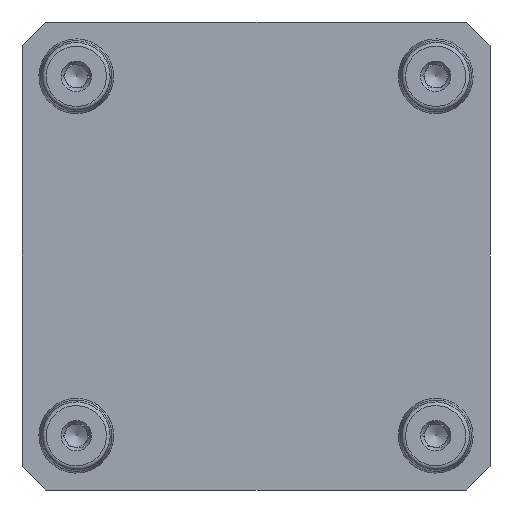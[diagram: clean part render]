
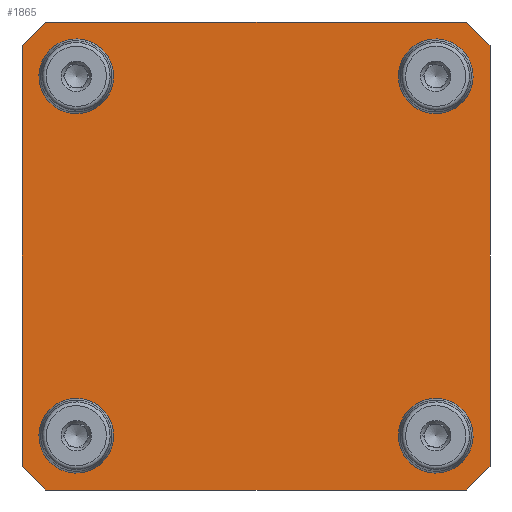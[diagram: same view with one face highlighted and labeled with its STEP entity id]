
A CAD part, front view. The second image highlights one B-rep face of the part: STEP entity #1865.
In plain terms, the highlighted planar face has unit normal (0, -1, 0).
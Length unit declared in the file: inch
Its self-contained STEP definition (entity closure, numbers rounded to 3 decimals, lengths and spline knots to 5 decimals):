
#7 = EDGE_CURVE ( 'NONE', #7587, #3811, #7456, .T. ) ;
#202 = CARTESIAN_POINT ( 'NONE',  ( 2.21063, -0.98425, -2.46063 ) ) ;
#268 = CARTESIAN_POINT ( 'NONE',  ( 2.21063, -0.98425, 2.46063 ) ) ;
#401 = EDGE_CURVE ( 'NONE', #6807, #6048, #6736, .T. ) ;
#476 = AXIS2_PLACEMENT_3D ( 'NONE', #5102, #921, #5064 ) ;
#752 = ORIENTED_EDGE ( 'NONE', *, *, #1777, .F. ) ;
#855 = EDGE_CURVE ( 'NONE', #3037, #3037, #2448, .T. ) ;
#880 = CARTESIAN_POINT ( 'NONE',  ( 1.88976, -0.98425, -2.20511 ) ) ;
#885 = ORIENTED_EDGE ( 'NONE', *, *, #401, .F. ) ;
#921 = DIRECTION ( 'NONE',  ( 0., -1., 0. ) ) ;
#1001 = DIRECTION ( 'NONE',  ( 0., 0., -1. ) ) ;
#1056 = CARTESIAN_POINT ( 'NONE',  ( -2.21063, -0.98425, 2.46063 ) ) ;
#1114 = VERTEX_POINT ( 'NONE', #4422 ) ;
#1183 = CARTESIAN_POINT ( 'NONE',  ( 2.46063, -0.98425, 2.21063 ) ) ;
#1207 = DIRECTION ( 'NONE',  ( 0.707, 0., 0.707 ) ) ;
#1337 = ORIENTED_EDGE ( 'NONE', *, *, #6427, .F. ) ;
#1449 = VECTOR ( 'NONE', #1969, 39.37008 ) ;
#1588 = CARTESIAN_POINT ( 'NONE',  ( -2.46063, -0.98425, 2.21063 ) ) ;
#1616 = DIRECTION ( 'NONE',  ( -1., 0., 0. ) ) ;
#1627 = LINE ( 'NONE', #3865, #1449 ) ;
#1702 = LINE ( 'NONE', #4113, #2118 ) ;
#1722 = AXIS2_PLACEMENT_3D ( 'NONE', #7809, #2247, #2128 ) ;
#1746 = CARTESIAN_POINT ( 'NONE',  ( -2.46063, -0.98425, -2.21063 ) ) ;
#1777 = EDGE_CURVE ( 'NONE', #5712, #5712, #6632, .T. ) ;
#1865 = ADVANCED_FACE ( 'NONE', ( #5795, #7700, #6882, #3254, #3797 ), #3835, .T. ) ;
#1896 = DIRECTION ( 'NONE',  ( 0.707, 0., -0.707 ) ) ;
#1969 = DIRECTION ( 'NONE',  ( 1., 0., 0. ) ) ;
#2008 = EDGE_CURVE ( 'NONE', #3811, #2947, #1702, .T. ) ;
#2038 = VECTOR ( 'NONE', #1896, 39.37008 ) ;
#2066 = VECTOR ( 'NONE', #2380, 39.37008 ) ;
#2118 = VECTOR ( 'NONE', #4560, 39.37008 ) ;
#2128 = DIRECTION ( 'NONE',  ( 0., 0., -1. ) ) ;
#2247 = DIRECTION ( 'NONE',  ( 0., -1., 0. ) ) ;
#2380 = DIRECTION ( 'NONE',  ( 0., 0., 1. ) ) ;
#2383 = EDGE_LOOP ( 'NONE', ( #752 ) ) ;
#2434 = VECTOR ( 'NONE', #1207, 39.37008 ) ;
#2448 = CIRCLE ( 'NONE', #5922, 0.31535 ) ;
#2451 = CARTESIAN_POINT ( 'NONE',  ( 1.88976, -0.98425, 1.57441 ) ) ;
#2496 = LINE ( 'NONE', #2937, #2066 ) ;
#2533 = VERTEX_POINT ( 'NONE', #5638 ) ;
#2628 = DIRECTION ( 'NONE',  ( 0., -1., 0. ) ) ;
#2826 = VECTOR ( 'NONE', #5820, 39.37008 ) ;
#2849 = CARTESIAN_POINT ( 'NONE',  ( 2.21063, -0.98425, -2.46063 ) ) ;
#2855 = CARTESIAN_POINT ( 'NONE',  ( 1.88976, -0.98425, 1.88976 ) ) ;
#2937 = CARTESIAN_POINT ( 'NONE',  ( -2.46063, -0.98425, 2.21063 ) ) ;
#2947 = VERTEX_POINT ( 'NONE', #3751 ) ;
#3033 = EDGE_CURVE ( 'NONE', #3426, #3426, #6093, .T. ) ;
#3037 = VERTEX_POINT ( 'NONE', #2451 ) ;
#3073 = EDGE_CURVE ( 'NONE', #3127, #1114, #6507, .T. ) ;
#3127 = VERTEX_POINT ( 'NONE', #2849 ) ;
#3254 = FACE_BOUND ( 'NONE', #6137, .T. ) ;
#3325 = CARTESIAN_POINT ( 'NONE',  ( 1.88976, -0.98425, -1.88976 ) ) ;
#3426 = VERTEX_POINT ( 'NONE', #6623 ) ;
#3751 = CARTESIAN_POINT ( 'NONE',  ( 2.46063, -0.98425, -2.21063 ) ) ;
#3785 = ORIENTED_EDGE ( 'NONE', *, *, #6309, .F. ) ;
#3797 = FACE_OUTER_BOUND ( 'NONE', #3802, .T. ) ;
#3802 = EDGE_LOOP ( 'NONE', ( #1337, #6782, #7530, #6472, #7024, #4415, #885, #3785 ) ) ;
#3811 = VERTEX_POINT ( 'NONE', #7792 ) ;
#3835 = PLANE ( 'NONE',  #476 ) ;
#3865 = CARTESIAN_POINT ( 'NONE',  ( 2.21063, -0.98425, 2.46063 ) ) ;
#3919 = DIRECTION ( 'NONE',  ( 0., 0., -1. ) ) ;
#4113 = CARTESIAN_POINT ( 'NONE',  ( 2.46063, -0.98425, -2.21063 ) ) ;
#4134 = CARTESIAN_POINT ( 'NONE',  ( -2.21063, -0.98425, 2.46063 ) ) ;
#4228 = ORIENTED_EDGE ( 'NONE', *, *, #3033, .F. ) ;
#4237 = DIRECTION ( 'NONE',  ( -0.707, 0., 0.707 ) ) ;
#4414 = ORIENTED_EDGE ( 'NONE', *, *, #855, .F. ) ;
#4415 = ORIENTED_EDGE ( 'NONE', *, *, #7126, .F. ) ;
#4422 = CARTESIAN_POINT ( 'NONE',  ( -2.21063, -0.98425, -2.46063 ) ) ;
#4519 = DIRECTION ( 'NONE',  ( 0., -1., 0. ) ) ;
#4560 = DIRECTION ( 'NONE',  ( 0., 0., -1. ) ) ;
#4705 = EDGE_LOOP ( 'NONE', ( #4228 ) ) ;
#4903 = VECTOR ( 'NONE', #1616, 39.37008 ) ;
#5064 = DIRECTION ( 'NONE',  ( 0., 0., -1. ) ) ;
#5079 = CARTESIAN_POINT ( 'NONE',  ( -1.88976, -0.98425, 1.57441 ) ) ;
#5102 = CARTESIAN_POINT ( 'NONE',  ( 0., -0.98425, 0. ) ) ;
#5285 = DIRECTION ( 'NONE',  ( 0., 0., -1. ) ) ;
#5393 = EDGE_CURVE ( 'NONE', #2947, #3127, #7719, .T. ) ;
#5638 = CARTESIAN_POINT ( 'NONE',  ( -2.46063, -0.98425, -2.21063 ) ) ;
#5666 = ORIENTED_EDGE ( 'NONE', *, *, #6467, .F. ) ;
#5667 = AXIS2_PLACEMENT_3D ( 'NONE', #7712, #5811, #5285 ) ;
#5712 = VERTEX_POINT ( 'NONE', #880 ) ;
#5787 = CIRCLE ( 'NONE', #5667, 0.31535 ) ;
#5795 = FACE_BOUND ( 'NONE', #4705, .T. ) ;
#5811 = DIRECTION ( 'NONE',  ( 0., -1., 0. ) ) ;
#5820 = DIRECTION ( 'NONE',  ( -0.707, 0., -0.707 ) ) ;
#5827 = AXIS2_PLACEMENT_3D ( 'NONE', #3325, #2628, #3919 ) ;
#5911 = CARTESIAN_POINT ( 'NONE',  ( -2.21063, -0.98425, -2.46063 ) ) ;
#5922 = AXIS2_PLACEMENT_3D ( 'NONE', #2855, #4519, #1001 ) ;
#6008 = LINE ( 'NONE', #1746, #6597 ) ;
#6048 = VERTEX_POINT ( 'NONE', #1056 ) ;
#6093 = CIRCLE ( 'NONE', #1722, 0.31535 ) ;
#6137 = EDGE_LOOP ( 'NONE', ( #5666 ) ) ;
#6309 = EDGE_CURVE ( 'NONE', #2533, #6807, #2496, .T. ) ;
#6381 = VERTEX_POINT ( 'NONE', #5079 ) ;
#6427 = EDGE_CURVE ( 'NONE', #1114, #2533, #6008, .T. ) ;
#6467 = EDGE_CURVE ( 'NONE', #6381, #6381, #5787, .T. ) ;
#6472 = ORIENTED_EDGE ( 'NONE', *, *, #2008, .F. ) ;
#6507 = LINE ( 'NONE', #5911, #4903 ) ;
#6597 = VECTOR ( 'NONE', #4237, 39.37008 ) ;
#6623 = CARTESIAN_POINT ( 'NONE',  ( -1.88976, -0.98425, -2.20511 ) ) ;
#6632 = CIRCLE ( 'NONE', #5827, 0.31535 ) ;
#6736 = LINE ( 'NONE', #4134, #2434 ) ;
#6782 = ORIENTED_EDGE ( 'NONE', *, *, #3073, .F. ) ;
#6807 = VERTEX_POINT ( 'NONE', #1588 ) ;
#6882 = FACE_BOUND ( 'NONE', #2383, .T. ) ;
#7024 = ORIENTED_EDGE ( 'NONE', *, *, #7, .F. ) ;
#7126 = EDGE_CURVE ( 'NONE', #6048, #7587, #1627, .T. ) ;
#7456 = LINE ( 'NONE', #1183, #2038 ) ;
#7530 = ORIENTED_EDGE ( 'NONE', *, *, #5393, .F. ) ;
#7587 = VERTEX_POINT ( 'NONE', #268 ) ;
#7700 = FACE_BOUND ( 'NONE', #7950, .T. ) ;
#7712 = CARTESIAN_POINT ( 'NONE',  ( -1.88976, -0.98425, 1.88976 ) ) ;
#7719 = LINE ( 'NONE', #202, #2826 ) ;
#7792 = CARTESIAN_POINT ( 'NONE',  ( 2.46063, -0.98425, 2.21063 ) ) ;
#7809 = CARTESIAN_POINT ( 'NONE',  ( -1.88976, -0.98425, -1.88976 ) ) ;
#7950 = EDGE_LOOP ( 'NONE', ( #4414 ) ) ;
